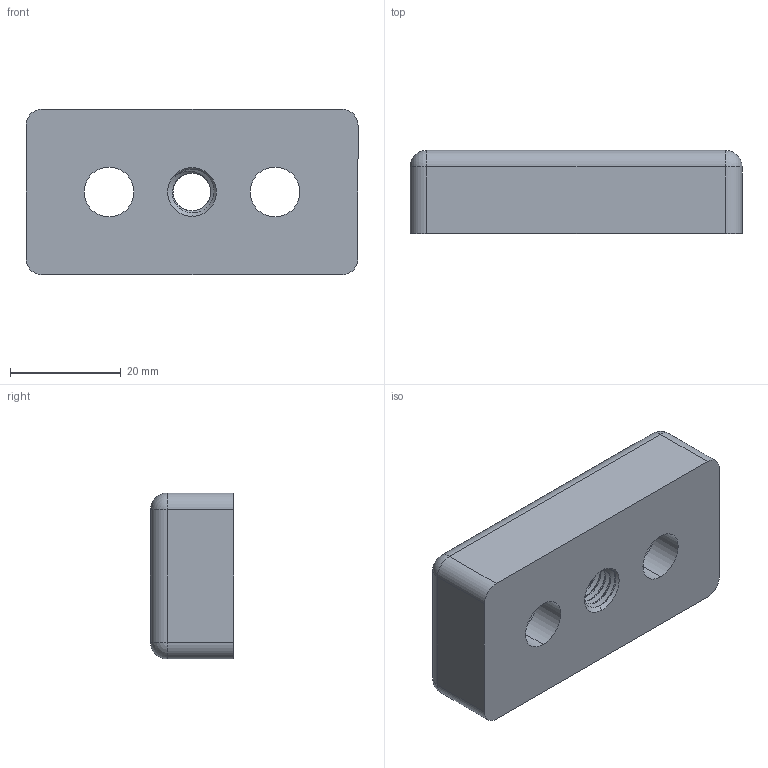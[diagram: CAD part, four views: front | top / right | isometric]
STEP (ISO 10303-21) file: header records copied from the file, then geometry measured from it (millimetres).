
FILE_DESCRIPTION (( 'STEP AP203' ), '1' );
FILE_NAME ('3205.006.004.STEP', '2025-02-19T04:53:10', ( '' ), ( '' ), 'SwSTEP 2.0', 'SolidWorks 2024', '' );
FILE_SCHEMA (( 'CONFIG_CONTROL_DESIGN' ));
Length unit declared in the file: millimetre
Products named in the file (1): 3205.006.004
Bounding box: 60 x 15 x 30 mm (x, y, z)
Volume: 21650 mm3; surface area: 7368.1 mm2
Topology: 1 solids, 1 shells, 64 faces, 166 edges, 102 vertices
Faces by surface type: cylinder 39, cone 10, plane 8, sphere 4, bspline 3
Entity records: 4806 total; most frequent: CARTESIAN_POINT 3314, ORIENTED_EDGE 324, DIRECTION 272, EDGE_CURVE 162, AXIS2_PLACEMENT_3D 106, VERTEX_POINT 102, EDGE_LOOP 72, ADVANCED_FACE 64
